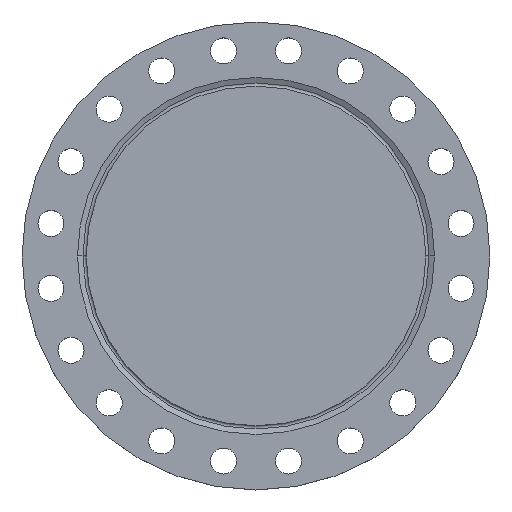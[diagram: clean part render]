
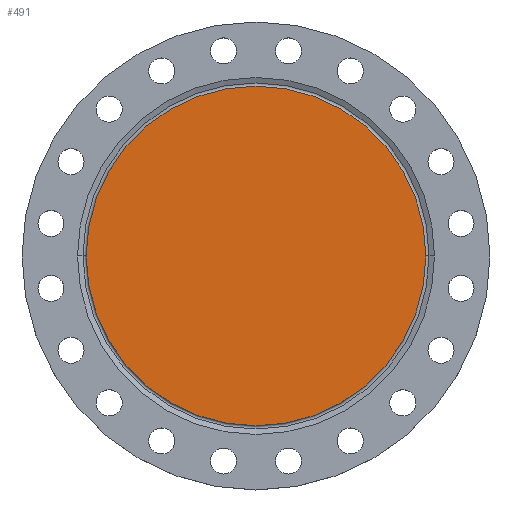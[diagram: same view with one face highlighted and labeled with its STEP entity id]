
A CAD part, top view. The second image highlights one B-rep face of the part: STEP entity #491.
In plain terms, the highlighted planar face has unit normal (0, 0, 1).
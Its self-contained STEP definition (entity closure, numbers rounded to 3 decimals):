
#112 = CARTESIAN_POINT ( 'NONE',  ( 0., 0., 0. ) ) ;
#183 = DIRECTION ( 'NONE',  ( -1., 0., 0. ) ) ;
#335 = AXIS2_PLACEMENT_3D ( 'NONE', #948, #1594, #183 ) ;
#491 = ADVANCED_FACE ( 'NONE', ( #678 ), #1311, .T. ) ;
#530 = DIRECTION ( 'NONE',  ( 0., 0., 1. ) ) ;
#590 = CIRCLE ( 'NONE', #335, 274. ) ;
#618 = CARTESIAN_POINT ( 'NONE',  ( 274., 0., 0. ) ) ;
#644 = CARTESIAN_POINT ( 'NONE',  ( -274., 0., 0. ) ) ;
#678 = FACE_OUTER_BOUND ( 'NONE', #1378, .T. ) ;
#727 = DIRECTION ( 'NONE',  ( 0., 0., -1. ) ) ;
#791 = EDGE_CURVE ( 'NONE', #1985, #1267, #590, .T. ) ;
#915 = AXIS2_PLACEMENT_3D ( 'NONE', #112, #727, #1357 ) ;
#948 = CARTESIAN_POINT ( 'NONE',  ( 0., 0., 0. ) ) ;
#1157 = DIRECTION ( 'NONE',  ( 1., 0., 0. ) ) ;
#1267 = VERTEX_POINT ( 'NONE', #644 ) ;
#1311 = PLANE ( 'NONE',  #1876 ) ;
#1338 = ORIENTED_EDGE ( 'NONE', *, *, #791, .F. ) ;
#1357 = DIRECTION ( 'NONE',  ( -1., 0., 0. ) ) ;
#1378 = EDGE_LOOP ( 'NONE', ( #1989, #1338 ) ) ;
#1504 = EDGE_CURVE ( 'NONE', #1267, #1985, #1823, .T. ) ;
#1594 = DIRECTION ( 'NONE',  ( 0., 0., -1. ) ) ;
#1823 = CIRCLE ( 'NONE', #915, 274. ) ;
#1876 = AXIS2_PLACEMENT_3D ( 'NONE', #1949, #530, #1157 ) ;
#1949 = CARTESIAN_POINT ( 'NONE',  ( 0., 0., 0. ) ) ;
#1985 = VERTEX_POINT ( 'NONE', #618 ) ;
#1989 = ORIENTED_EDGE ( 'NONE', *, *, #1504, .F. ) ;
